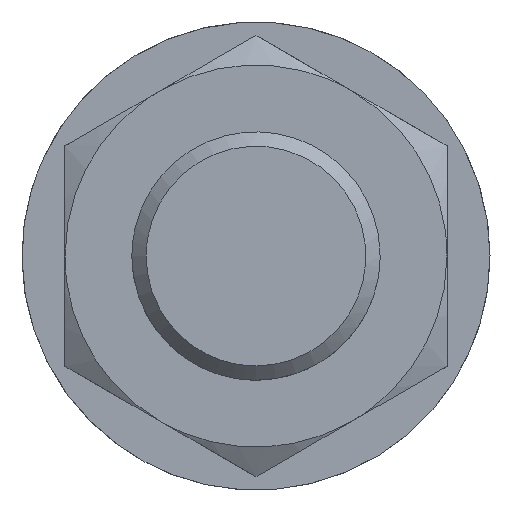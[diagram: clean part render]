
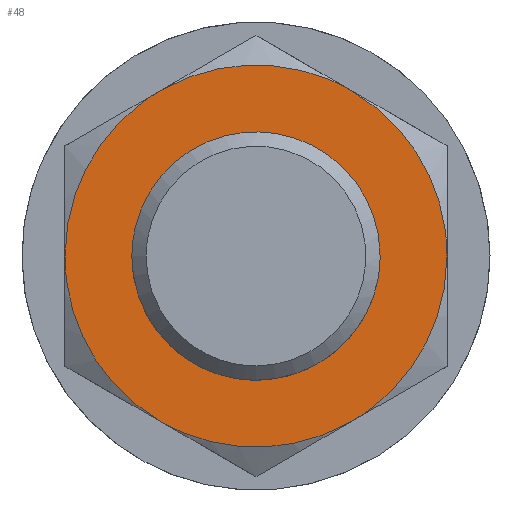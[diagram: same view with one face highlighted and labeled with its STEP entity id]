
A CAD part, left-side view. The second image highlights one B-rep face of the part: STEP entity #48.
In plain terms, the highlighted planar face has unit normal (-1, 0, 0).
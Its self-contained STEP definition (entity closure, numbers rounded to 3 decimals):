
#39=FACE_BOUND('',#135,.T.);
#48=ADVANCED_FACE('',(#90,#39),#655,.T.);
#90=FACE_OUTER_BOUND('',#134,.T.);
#134=EDGE_LOOP('',(#198,#199,#200,#201,#202,#203));
#135=EDGE_LOOP('',(#204,#205));
#198=ORIENTED_EDGE('',*,*,#399,.F.);
#199=ORIENTED_EDGE('',*,*,#401,.F.);
#200=ORIENTED_EDGE('',*,*,#402,.F.);
#201=ORIENTED_EDGE('',*,*,#400,.F.);
#202=ORIENTED_EDGE('',*,*,#398,.F.);
#203=ORIENTED_EDGE('',*,*,#397,.F.);
#204=ORIENTED_EDGE('',*,*,#387,.F.);
#205=ORIENTED_EDGE('',*,*,#385,.F.);
#385=EDGE_CURVE('',#600,#590,#510,.T.);
#387=EDGE_CURVE('',#590,#600,#511,.T.);
#397=EDGE_CURVE('',#594,#595,#519,.T.);
#398=EDGE_CURVE('',#595,#599,#520,.T.);
#399=EDGE_CURVE('',#596,#594,#521,.T.);
#400=EDGE_CURVE('',#599,#598,#522,.T.);
#401=EDGE_CURVE('',#597,#596,#523,.T.);
#402=EDGE_CURVE('',#598,#597,#524,.T.);
#510=(
BOUNDED_CURVE()
B_SPLINE_CURVE(2,(#1158,#1159,#1160,#1161,#1162),.UNSPECIFIED.,.F.,.F.)
B_SPLINE_CURVE_WITH_KNOTS((3,2,3),(81.681,122.522,163.363),
 .UNSPECIFIED.)
CURVE()
GEOMETRIC_REPRESENTATION_ITEM()
RATIONAL_B_SPLINE_CURVE((1.,0.707,1.,0.707,1.))
REPRESENTATION_ITEM('')
);
#511=(
BOUNDED_CURVE()
B_SPLINE_CURVE(2,(#1165,#1166,#1167,#1168,#1169),.UNSPECIFIED.,.F.,.F.)
B_SPLINE_CURVE_WITH_KNOTS((3,2,3),(0.,40.841,81.681),
 .UNSPECIFIED.)
CURVE()
GEOMETRIC_REPRESENTATION_ITEM()
RATIONAL_B_SPLINE_CURVE((1.,0.707,1.,0.707,1.))
REPRESENTATION_ITEM('')
);
#519=(
BOUNDED_CURVE()
B_SPLINE_CURVE(2,(#1207,#1208,#1209),.UNSPECIFIED.,.F.,.F.)
B_SPLINE_CURVE_WITH_KNOTS((3,3),(0.,41.888),.UNSPECIFIED.)
CURVE()
GEOMETRIC_REPRESENTATION_ITEM()
RATIONAL_B_SPLINE_CURVE((1.,0.866,1.))
REPRESENTATION_ITEM('')
);
#520=(
BOUNDED_CURVE()
B_SPLINE_CURVE(2,(#1210,#1211,#1212),.UNSPECIFIED.,.F.,.F.)
B_SPLINE_CURVE_WITH_KNOTS((3,3),(0.,41.888),.UNSPECIFIED.)
CURVE()
GEOMETRIC_REPRESENTATION_ITEM()
RATIONAL_B_SPLINE_CURVE((1.,0.866,1.))
REPRESENTATION_ITEM('')
);
#521=(
BOUNDED_CURVE()
B_SPLINE_CURVE(2,(#1213,#1214,#1215),.UNSPECIFIED.,.F.,.F.)
B_SPLINE_CURVE_WITH_KNOTS((3,3),(0.,41.888),.UNSPECIFIED.)
CURVE()
GEOMETRIC_REPRESENTATION_ITEM()
RATIONAL_B_SPLINE_CURVE((1.,0.866,1.))
REPRESENTATION_ITEM('')
);
#522=(
BOUNDED_CURVE()
B_SPLINE_CURVE(2,(#1216,#1217,#1218),.UNSPECIFIED.,.F.,.F.)
B_SPLINE_CURVE_WITH_KNOTS((3,3),(0.,41.888),.UNSPECIFIED.)
CURVE()
GEOMETRIC_REPRESENTATION_ITEM()
RATIONAL_B_SPLINE_CURVE((1.,0.866,1.))
REPRESENTATION_ITEM('')
);
#523=(
BOUNDED_CURVE()
B_SPLINE_CURVE(2,(#1219,#1220,#1221),.UNSPECIFIED.,.F.,.F.)
B_SPLINE_CURVE_WITH_KNOTS((3,3),(0.,41.888),.UNSPECIFIED.)
CURVE()
GEOMETRIC_REPRESENTATION_ITEM()
RATIONAL_B_SPLINE_CURVE((1.,0.866,1.))
REPRESENTATION_ITEM('')
);
#524=(
BOUNDED_CURVE()
B_SPLINE_CURVE(2,(#1222,#1223,#1224),.UNSPECIFIED.,.F.,.F.)
B_SPLINE_CURVE_WITH_KNOTS((3,3),(0.,41.888),.UNSPECIFIED.)
CURVE()
GEOMETRIC_REPRESENTATION_ITEM()
RATIONAL_B_SPLINE_CURVE((1.,0.866,1.))
REPRESENTATION_ITEM('')
);
#590=VERTEX_POINT('',#1126);
#594=VERTEX_POINT('',#1130);
#595=VERTEX_POINT('',#1131);
#596=VERTEX_POINT('',#1132);
#597=VERTEX_POINT('',#1133);
#598=VERTEX_POINT('',#1134);
#599=VERTEX_POINT('',#1135);
#600=VERTEX_POINT('',#1136);
#655=PLANE('',#769);
#769=AXIS2_PLACEMENT_3D('',#883,#795,$);
#795=DIRECTION('',(-1.,0.,0.));
#883=CARTESIAN_POINT('',(69.333,-48.12,-55.546));
#1126=CARTESIAN_POINT('',(69.333,26.,0.));
#1130=CARTESIAN_POINT('',(69.333,-20.,-34.641));
#1131=CARTESIAN_POINT('',(69.333,20.,-34.641));
#1132=CARTESIAN_POINT('',(69.333,-40.,0.));
#1133=CARTESIAN_POINT('',(69.333,-20.,34.641));
#1134=CARTESIAN_POINT('',(69.333,20.,34.641));
#1135=CARTESIAN_POINT('',(69.333,40.,0.));
#1136=CARTESIAN_POINT('',(69.333,-26.,0.));
#1158=CARTESIAN_POINT('',(69.333,-26.,0.));
#1159=CARTESIAN_POINT('',(69.333,-26.,26.));
#1160=CARTESIAN_POINT('',(69.333,0.,26.));
#1161=CARTESIAN_POINT('',(69.333,26.,26.));
#1162=CARTESIAN_POINT('',(69.333,26.,0.));
#1165=CARTESIAN_POINT('',(69.333,26.,0.));
#1166=CARTESIAN_POINT('',(69.333,26.,-26.));
#1167=CARTESIAN_POINT('',(69.333,0.,-26.));
#1168=CARTESIAN_POINT('',(69.333,-26.,-26.));
#1169=CARTESIAN_POINT('',(69.333,-26.,0.));
#1207=CARTESIAN_POINT('',(69.333,-20.,-34.641));
#1208=CARTESIAN_POINT('',(69.333,0.,-46.188));
#1209=CARTESIAN_POINT('',(69.333,20.,-34.641));
#1210=CARTESIAN_POINT('',(69.333,20.,-34.641));
#1211=CARTESIAN_POINT('',(69.333,40.,-23.094));
#1212=CARTESIAN_POINT('',(69.333,40.,0.));
#1213=CARTESIAN_POINT('',(69.333,-40.,0.));
#1214=CARTESIAN_POINT('',(69.333,-40.,-23.094));
#1215=CARTESIAN_POINT('',(69.333,-20.,-34.641));
#1216=CARTESIAN_POINT('',(69.333,40.,0.));
#1217=CARTESIAN_POINT('',(69.333,40.,23.094));
#1218=CARTESIAN_POINT('',(69.333,20.,34.641));
#1219=CARTESIAN_POINT('',(69.333,-20.,34.641));
#1220=CARTESIAN_POINT('',(69.333,-40.,23.094));
#1221=CARTESIAN_POINT('',(69.333,-40.,0.));
#1222=CARTESIAN_POINT('',(69.333,20.,34.641));
#1223=CARTESIAN_POINT('',(69.333,0.,46.188));
#1224=CARTESIAN_POINT('',(69.333,-20.,34.641));
